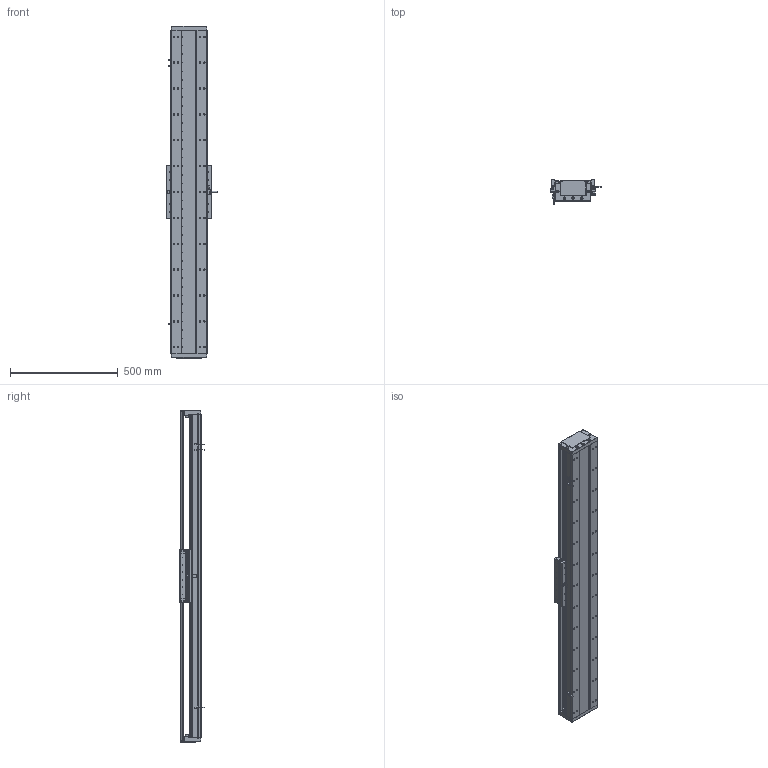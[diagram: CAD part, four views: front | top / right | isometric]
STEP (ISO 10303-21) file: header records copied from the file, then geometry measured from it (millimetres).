
FILE_DESCRIPTION (( 'STEP AP203' ), '1' );
FILE_NAME ('DA-C165-C3-T1200-C010-0.2 直线电机.STEP', '2023-06-13T08:43:54', ( '微软用户' ), ( '微软中国' ), 'SwSTEP 2.0', 'SolidWorks 2019', '' );
FILE_SCHEMA (( 'CONFIG_CONTROL_DESIGN' ));
Length unit declared in the file: millimetre
Products named in the file (15): IU-CU165-L 菁釱絳寢; 珨极趙賑雄怢啣C3-wf; 复件 XD-U-02L 磁栅尺^DA-C165-C3-T-C010-0.2-N 直线电机_T; 复件 DA165-DG-H-N-00 端盖^DA-C165-C3-T-C010-0.2-N 直线电机; 复件 DA165-T-002-00 盖板^DA-C165-C3-T-C010-0.2-N 直线电机_0840-002-00; DA-C165-C3-T1200-C010-0.2 眻盄萇儂; 复件 DA165-GYP-00 光电感应片^DA-C165-C3-T-C010-0.2-N 直线电机; 葩璃 DA95-GT-T-00^IU-CU165-L 菁釱絳寢_T; 葩璃 CKM03-W075-C1C2-TP-3.0^DA-C165-C3-T-C010-0.2-N 眻盄萇儂; 复件 CU165 底座^IU-CU165-L 底座导轨_L1500; 复件 DMA-010-0.2 读数头^DA-C165-C3-T-C010-0.2-N 直线电机; 复件 六角薄螺母 M3^DA-C165-C3-T-C010-0.2-N 直线电机_GB_FASTENER_NUT_STNAB M3-C; 葩璃 PM-T45^DA-C165-C3-T-C010-0.2-N 眻盄萇儂; 葩璃 CKM01-W075-TRL^DA-C165-C3-T-C010-0.2-N 眻盄萇儂; 复件 DA95-HXJ-00 缓冲橡胶^DA-C165-C3-T-C010-0.2-N 直线电机
Assembly tree (30 placements, depth 3):
  DA-C165-C3-T1200-C010-0.2 眻盄萇儂
    IU-CU165-L 菁釱絳寢
      复件 CU165 底座^IU-CU165-L 底座导轨_L1500
      葩璃 DA95-GT-T-00^IU-CU165-L 菁釱絳寢_T  x4
    复件 DA165-DG-H-N-00 端盖^DA-C165-C3-T-C010-0.2-N 直线电机  x2
    复件 DA95-HXJ-00 缓冲橡胶^DA-C165-C3-T-C010-0.2-N 直线电机  x4
    复件 DA165-T-002-00 盖板^DA-C165-C3-T-C010-0.2-N 直线电机_0840-002-00
    复件 XD-U-02L 磁栅尺^DA-C165-C3-T-C010-0.2-N 直线电机_T
    葩璃 PM-T45^DA-C165-C3-T-C010-0.2-N 眻盄萇儂  x3
    葩璃 CKM01-W075-TRL^DA-C165-C3-T-C010-0.2-N 眻盄萇儂
    复件 DA165-GYP-00 光电感应片^DA-C165-C3-T-C010-0.2-N 直线电机
    复件 DMA-010-0.2 读数头^DA-C165-C3-T-C010-0.2-N 直线电机
    葩璃 CKM03-W075-C1C2-TP-3.0^DA-C165-C3-T-C010-0.2-N 眻盄萇儂
    复件 六角薄螺母 M3^DA-C165-C3-T-C010-0.2-N 直线电机_GB_FASTENER_NUT_STNAB M3-C  x8
    珨极趙賑雄怢啣C3-wf
Bounding box: 233 x 111.45 x 1540 mm (x, y, z)
Volume: 10920905.2 mm3; surface area: 3009557 mm2
Topology: 68 solids, 118 shells, 3795 faces, 10422 edges, 6508 vertices
Faces by surface type: cylinder 1994, plane 1191, cone 552, torus 54, sphere 4
Entity records: 117447 total; most frequent: CARTESIAN_POINT 29318, DIRECTION 18160, ORIENTED_EDGE 17898, EDGE_CURVE 8949, AXIS2_PLACEMENT_3D 6908, VERTEX_POINT 5796, LINE 4344, VECTOR 4344
